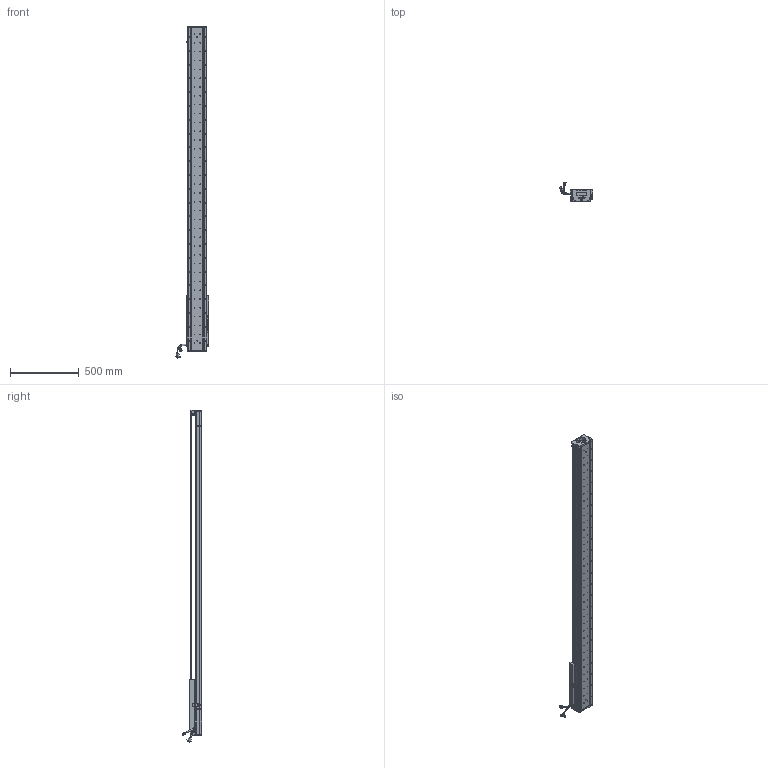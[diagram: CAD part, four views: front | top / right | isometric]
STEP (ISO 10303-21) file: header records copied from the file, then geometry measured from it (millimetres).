
FILE_DESCRIPTION (( 'STEP AP203' ), '1' );
FILE_NAME ('Z5-RY140D-1-L500-B-K.SLDASM_1900.step', '2021-05-17T08:38:09', ( '盈信电脑' ), ( '东莞市道滘镇水果街19号' ), 'SwSTEP 2.0', 'SolidWorks 2016', '' );
FILE_SCHEMA (( 'CONFIG_CONTROL_DESIGN' ));
Length unit declared in the file: millimetre
Products named in the file (36): Z-140詩湍傷裔啣; Z5-RY140-L500直线电机模组底座_1900; 詩湍狟揤裔; LABEL-Part-1; SEAL-Part-1; SCALE-Part-1; SCREW-M1.6-1; LABEL; SHIELDPLATE; HARNESS-Part-2; 詩湍奻揤裔; SEAL; PBU_SHEET; HARNESS-Part-1; 080黍杅芛假蚾釱21遴; 140蚥薯蝶輸; 140-Z-臏賑輸盄裔(21遴); SCREW-M1.6-2; COVER-Part-1; 140雄赽晤鎢ん堤盄; SCREW-M1.6; SCREW-M1.7; SCALE; 覜茼ん672; PSLH080_PSLF2; Z5-RY140圉猾敕臏賑輸(21遴); Z5-RY140-L500詩湍100mm遵_1900; Z5-RY140D-1-L500-B-K.SLDASM_1900; 榋妏寠巭燃_暯_M2_2; SCREW-M1.7-1; Z-RY140感应器672光电感应片; SCREW-M1.6-3; COVER; HOLDER0; HARNESS; SCALE-Part-2
Assembly tree (41 placements, depth 4):
  Z5-RY140D-1-L500-B-K.SLDASM_1900
    Z5-RY140-L500直线电机模组底座_1900
    Z-RY140感应器672光电感应片
    Z5-RY140圉猾敕臏賑輸(21遴)
    覜茼ん672  x3
    Z5-RY140-L500詩湍100mm遵_1900
    PSLH080_PSLF2
      SCALE
        SCALE-Part-1
        SCALE-Part-2
      HARNESS
        HARNESS-Part-1
        HARNESS-Part-2
      LABEL
        LABEL-Part-1
      COVER
        COVER-Part-1
      SEAL
        SEAL-Part-1
      榋妏寠巭燃_暯_M2_2
      SHIELDPLATE
      SCREW-M1.7
      SCREW-M1.7-1
      PBU_SHEET
      SCREW-M1.6
      SCREW-M1.6-1
      SCREW-M1.6-2
      SCREW-M1.6-3
      HOLDER0
    080黍杅芛假蚾釱21遴
    140-Z-臏賑輸盄裔(21遴)
    Z-140詩湍傷裔啣  x2
    詩湍狟揤裔  x2
    詩湍奻揤裔  x2
    140蚥薯蝶輸  x2
    140雄赽晤鎢ん堤盄
Bounding box: 239.84 x 143.88 x 2405.87 mm (x, y, z)
Volume: 8200340.8 mm3; surface area: 2094237.8 mm2
Topology: 36 solids, 36 shells, 3974 faces, 10758 edges, 6817 vertices
Faces by surface type: cylinder 2128, plane 1338, cone 386, torus 69, bspline 53
Entity records: 124810 total; most frequent: CARTESIAN_POINT 34557, ORIENTED_EDGE 18468, DIRECTION 17338, EDGE_CURVE 9234, AXIS2_PLACEMENT_3D 6462, VERTEX_POINT 5985, VECTOR 4414, LINE 4414
